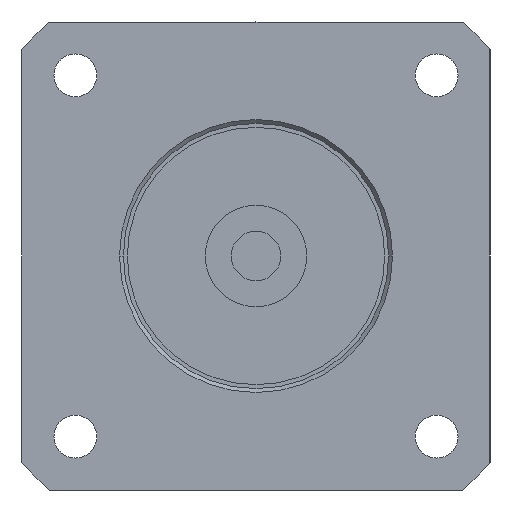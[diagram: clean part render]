
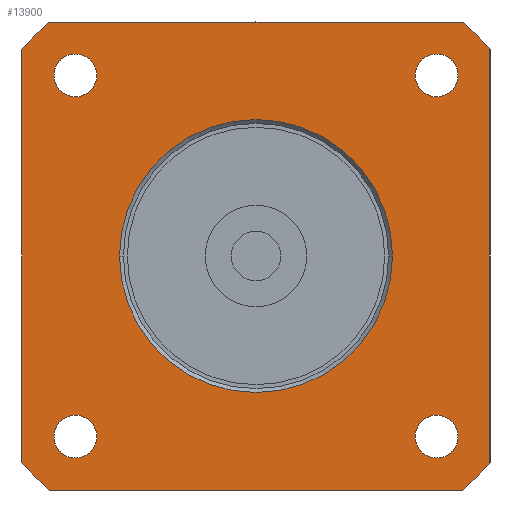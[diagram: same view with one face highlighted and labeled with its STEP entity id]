
A CAD part, left-side view. The second image highlights one B-rep face of the part: STEP entity #13900.
In plain terms, the highlighted planar face has unit normal (-1, 0, 0) as drawn and (0, 0, -1) by its records, which use the part's own axes.
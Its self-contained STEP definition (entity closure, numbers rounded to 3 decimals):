
#8660=CARTESIAN_POINT('',(-23.158,25.908,-35.));
#8670=VERTEX_POINT('',#8660);
#8830=CARTESIAN_POINT('',(-23.158,20.408,-35.));
#8840=VERTEX_POINT('',#8830);
#8870=CARTESIAN_POINT('',(-23.158,23.158,-35.));
#8880=DIRECTION('',(0.,0.,1.));
#8890=DIRECTION('',(0.,1.,0.));
#8900=AXIS2_PLACEMENT_3D('',#8870,#8880,#8890);
#8910=CIRCLE('',#8900,2.75);
#8920=EDGE_CURVE('',#8840,#8670,#8910,.T.);
#12280=CARTESIAN_POINT('',(17.5,0.,-35.));
#12290=VERTEX_POINT('',#12280);
#12320=CARTESIAN_POINT('',(0.,0.,
-35.));
#12330=DIRECTION('',(0.,0.,1.));
#12340=DIRECTION('',(0.,1.,0.));
#12350=AXIS2_PLACEMENT_3D('',#12320,#12330,#12340);
#12360=CIRCLE('',#12350,17.5);
#12370=CARTESIAN_POINT('',(0.,17.5,-35.));
#12380=VERTEX_POINT('',#12370);
#12390=EDGE_CURVE('',#12290,#12380,#12360,.T.);
#12410=CARTESIAN_POINT('',(-17.5,0.,-35.));
#12420=VERTEX_POINT('',#12410);
#12430=EDGE_CURVE('',#12380,#12420,#12360,.T.);
#12590=CARTESIAN_POINT('',(0.,-40.,-35.));
#12600=DIRECTION('',(0.,0.,1.));
#12610=DIRECTION('',(0.,1.,0.));
#12620=AXIS2_PLACEMENT_3D('',#12590,#12600,#12610);
#12630=PLANE('',#12620);
#12640=EDGE_CURVE('',#12420,#12290,#12360,.T.);
#12650=ORIENTED_EDGE('',*,*,#12640,.T.);
#12660=ORIENTED_EDGE('',*,*,#12430,.T.);
#12670=ORIENTED_EDGE('',*,*,#12390,.T.);
#12680=EDGE_LOOP('',(#12670,#12660,#12650));
#12690=FACE_BOUND('',#12680,.T.);
#12700=CARTESIAN_POINT('',(23.158,-23.158,-35.));
#12710=DIRECTION('',(0.,0.,1.));
#12720=DIRECTION('',(0.,1.,0.));
#12730=AXIS2_PLACEMENT_3D('',#12700,#12710,#12720);
#12740=CIRCLE('',#12730,2.75);
#12750=CARTESIAN_POINT('',(23.158,-20.408,-35.));
#12760=VERTEX_POINT('',#12750);
#12770=CARTESIAN_POINT('',(23.158,-25.908,-35.));
#12780=VERTEX_POINT('',#12770);
#12790=EDGE_CURVE('',#12760,#12780,#12740,.T.);
#12800=ORIENTED_EDGE('',*,*,#12790,.T.);
#12810=EDGE_CURVE('',#12780,#12760,#12740,.T.);
#12820=ORIENTED_EDGE('',*,*,#12810,.T.);
#12830=EDGE_LOOP('',(#12820,#12800));
#12840=FACE_BOUND('',#12830,.T.);
#12850=CARTESIAN_POINT('',(-23.158,-23.158,-35.));
#12860=DIRECTION('',(0.,0.,1.));
#12870=DIRECTION('',(0.,1.,0.));
#12880=AXIS2_PLACEMENT_3D('',#12850,#12860,#12870);
#12890=CIRCLE('',#12880,2.75);
#12900=CARTESIAN_POINT('',(-23.158,-20.408,-35.));
#12910=VERTEX_POINT('',#12900);
#12920=CARTESIAN_POINT('',(-23.158,-25.908,-35.));
#12930=VERTEX_POINT('',#12920);
#12940=EDGE_CURVE('',#12910,#12930,#12890,.T.);
#12950=ORIENTED_EDGE('',*,*,#12940,.T.);
#12960=EDGE_CURVE('',#12930,#12910,#12890,.T.);
#12970=ORIENTED_EDGE('',*,*,#12960,.T.);
#12980=EDGE_LOOP('',(#12970,#12950));
#12990=FACE_BOUND('',#12980,.T.);
#13000=EDGE_CURVE('',#8670,#8840,#8910,.T.);
#13010=ORIENTED_EDGE('',*,*,#13000,.T.);
#13020=ORIENTED_EDGE('',*,*,#8920,.T.);
#13030=EDGE_LOOP('',(#13020,#13010));
#13040=FACE_BOUND('',#13030,.T.);
#13050=CARTESIAN_POINT('',(23.158,23.158,-35.));
#13060=DIRECTION('',(0.,0.,1.));
#13070=DIRECTION('',(0.,1.,0.));
#13080=AXIS2_PLACEMENT_3D('',#13050,#13060,#13070);
#13090=CIRCLE('',#13080,2.75);
#13100=CARTESIAN_POINT('',(23.158,25.908,-35.));
#13110=VERTEX_POINT('',#13100);
#13120=CARTESIAN_POINT('',(23.158,20.408,-35.));
#13130=VERTEX_POINT('',#13120);
#13140=EDGE_CURVE('',#13110,#13130,#13090,.T.);
#13150=ORIENTED_EDGE('',*,*,#13140,.T.);
#13160=EDGE_CURVE('',#13130,#13110,#13090,.T.);
#13170=ORIENTED_EDGE('',*,*,#13160,.T.);
#13180=EDGE_LOOP('',(#13170,#13150));
#13190=FACE_BOUND('',#13180,.T.);
#13200=CARTESIAN_POINT('',(0.,0.,
-35.));
#13210=DIRECTION('',(0.,0.,1.));
#13220=DIRECTION('',(0.,1.,0.));
#13230=AXIS2_PLACEMENT_3D('',#13200,#13210,#13220);
#13240=CIRCLE('',#13230,40.);
#13250=CARTESIAN_POINT('',(-30.,-26.458,-35.));
#13260=VERTEX_POINT('',#13250);
#13270=CARTESIAN_POINT('',(-26.458,-30.,-35.));
#13280=VERTEX_POINT('',#13270);
#13290=EDGE_CURVE('',#13260,#13280,#13240,.T.);
#13300=ORIENTED_EDGE('',*,*,#13290,.F.);
#13310=CARTESIAN_POINT('',(30.,-30.,-35.));
#13320=DIRECTION('',(-1.,0.,0.));
#13330=VECTOR('',#13320,1000.);
#13340=LINE('',#13310,#13330);
#13350=CARTESIAN_POINT('',(26.458,-30.,-35.));
#13360=VERTEX_POINT('',#13350);
#13370=EDGE_CURVE('',#13360,#13280,#13340,.T.);
#13380=ORIENTED_EDGE('',*,*,#13370,.T.);
#13390=CARTESIAN_POINT('',(0.,0.,
-35.));
#13400=DIRECTION('',(0.,0.,1.));
#13410=DIRECTION('',(0.,1.,0.));
#13420=AXIS2_PLACEMENT_3D('',#13390,#13400,#13410);
#13430=CIRCLE('',#13420,40.);
#13440=CARTESIAN_POINT('',(30.,-26.458,-35.));
#13450=VERTEX_POINT('',#13440);
#13460=EDGE_CURVE('',#13360,#13450,#13430,.T.);
#13470=ORIENTED_EDGE('',*,*,#13460,.F.);
#13480=CARTESIAN_POINT('',(30.,30.,-35.));
#13490=DIRECTION('',(0.,-1.,0.));
#13500=VECTOR('',#13490,1000.);
#13510=LINE('',#13480,#13500);
#13520=CARTESIAN_POINT('',(30.,26.458,-35.));
#13530=VERTEX_POINT('',#13520);
#13540=EDGE_CURVE('',#13530,#13450,#13510,.T.);
#13550=ORIENTED_EDGE('',*,*,#13540,.T.);
#13560=CARTESIAN_POINT('',(0.,0.,
-35.));
#13570=DIRECTION('',(0.,0.,1.));
#13580=DIRECTION('',(0.,1.,0.));
#13590=AXIS2_PLACEMENT_3D('',#13560,#13570,#13580);
#13600=CIRCLE('',#13590,40.);
#13610=CARTESIAN_POINT('',(26.458,30.,-35.));
#13620=VERTEX_POINT('',#13610);
#13630=EDGE_CURVE('',#13530,#13620,#13600,.T.);
#13640=ORIENTED_EDGE('',*,*,#13630,.F.);
#13650=CARTESIAN_POINT('',(-30.,30.,-35.));
#13660=DIRECTION('',(1.,0.,0.));
#13670=VECTOR('',#13660,1000.);
#13680=LINE('',#13650,#13670);
#13690=CARTESIAN_POINT('',(-26.458,30.,-35.));
#13700=VERTEX_POINT('',#13690);
#13710=EDGE_CURVE('',#13700,#13620,#13680,.T.);
#13720=ORIENTED_EDGE('',*,*,#13710,.T.);
#13730=CARTESIAN_POINT('',(0.,0.,
-35.));
#13740=DIRECTION('',(0.,0.,1.));
#13750=DIRECTION('',(0.,1.,0.));
#13760=AXIS2_PLACEMENT_3D('',#13730,#13740,#13750);
#13770=CIRCLE('',#13760,40.);
#13780=CARTESIAN_POINT('',(-30.,26.458,-35.));
#13790=VERTEX_POINT('',#13780);
#13800=EDGE_CURVE('',#13700,#13790,#13770,.T.);
#13810=ORIENTED_EDGE('',*,*,#13800,.F.);
#13820=CARTESIAN_POINT('',(-30.,-30.,-35.));
#13830=DIRECTION('',(0.,1.,0.));
#13840=VECTOR('',#13830,1000.);
#13850=LINE('',#13820,#13840);
#13860=EDGE_CURVE('',#13260,#13790,#13850,.T.);
#13870=ORIENTED_EDGE('',*,*,#13860,.T.);
#13880=EDGE_LOOP('',(#13870,#13810,#13720,#13640,#13550,#13470,#13380,
#13300));
#13890=FACE_OUTER_BOUND('',#13880,.T.);
#13900=ADVANCED_FACE('',(#12690,#12840,#12990,#13040,#13190,#13890),
#12630,.F.);
